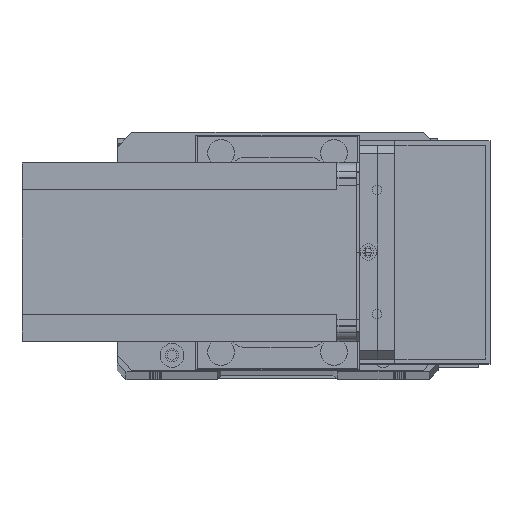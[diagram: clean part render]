
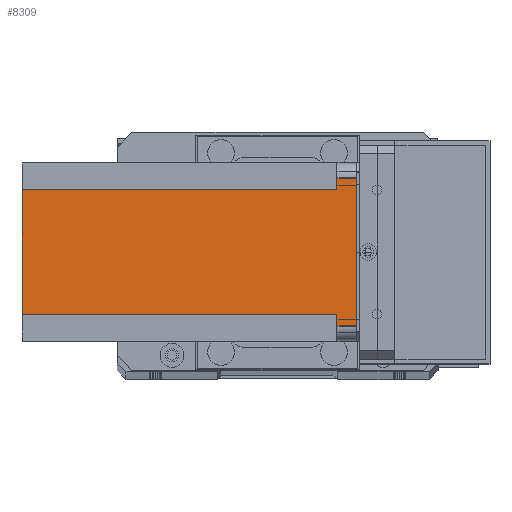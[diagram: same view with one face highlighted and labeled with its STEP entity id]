
A CAD part, top view. The second image highlights one B-rep face of the part: STEP entity #8309.
In plain terms, the highlighted planar face has unit normal (0, 0, 1) as drawn and (1, 0, 0) by its records, which use the part's own axes.
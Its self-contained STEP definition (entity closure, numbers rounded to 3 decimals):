
#1327 = EDGE_CURVE ( 'NONE', #29717, #27792, #20728, .T. ) ;
#1369 = ORIENTED_EDGE ( 'NONE', *, *, #2274, .F. ) ;
#1533 = DIRECTION ( 'NONE',  ( 0., 0., -1. ) ) ;
#1761 = CARTESIAN_POINT ( 'NONE',  ( 60., 55., -112.5 ) ) ;
#2274 = EDGE_CURVE ( 'NONE', #8388, #29334, #2811, .T. ) ;
#2801 = ORIENTED_EDGE ( 'NONE', *, *, #1327, .F. ) ;
#2811 = LINE ( 'NONE', #17540, #27868 ) ;
#3023 = LINE ( 'NONE', #1761, #28079 ) ;
#3851 = VERTEX_POINT ( 'NONE', #19854 ) ;
#5278 = ORIENTED_EDGE ( 'NONE', *, *, #15364, .F. ) ;
#5465 = ORIENTED_EDGE ( 'NONE', *, *, #7464, .T. ) ;
#6246 = VECTOR ( 'NONE', #12722, 1000. ) ;
#6662 = CARTESIAN_POINT ( 'NONE',  ( 60., 9., -6.5 ) ) ;
#7134 = CARTESIAN_POINT ( 'NONE',  ( 60., 5., -6.5 ) ) ;
#7464 = EDGE_CURVE ( 'NONE', #29717, #21645, #27766, .T. ) ;
#7660 = VECTOR ( 'NONE', #9786, 1000. ) ;
#7754 = LINE ( 'NONE', #28847, #25564 ) ;
#8309 = ADVANCED_FACE ( 'NONE', ( #27705 ), #29909, .T. ) ;
#8388 = VERTEX_POINT ( 'NONE', #18219 ) ;
#8559 = EDGE_CURVE ( 'NONE', #11152, #29334, #3023, .T. ) ;
#9449 = DIRECTION ( 'NONE',  ( 0., 0., 1. ) ) ;
#9786 = DIRECTION ( 'NONE',  ( 0., 1., 0. ) ) ;
#10155 = CARTESIAN_POINT ( 'NONE',  ( 60., 51., -112.5 ) ) ;
#10585 = DIRECTION ( 'NONE',  ( 1., 0., 0. ) ) ;
#10671 = VERTEX_POINT ( 'NONE', #7134 ) ;
#11152 = VERTEX_POINT ( 'NONE', #16000 ) ;
#11537 = AXIS2_PLACEMENT_3D ( 'NONE', #20249, #10585, #27546 ) ;
#11848 = ORIENTED_EDGE ( 'NONE', *, *, #12796, .F. ) ;
#12722 = DIRECTION ( 'NONE',  ( 0., 0., -1. ) ) ;
#12796 = EDGE_CURVE ( 'NONE', #11152, #3851, #7754, .T. ) ;
#13613 = EDGE_CURVE ( 'NONE', #3851, #21645, #24056, .T. ) ;
#14293 = VECTOR ( 'NONE', #9449, 1000. ) ;
#15180 = CARTESIAN_POINT ( 'NONE',  ( 60., 0., -6.5 ) ) ;
#15364 = EDGE_CURVE ( 'NONE', #27792, #10671, #16379, .T. ) ;
#16000 = CARTESIAN_POINT ( 'NONE',  ( 60., 55., -6.5 ) ) ;
#16090 = CARTESIAN_POINT ( 'NONE',  ( 60., 5., -112.5 ) ) ;
#16379 = LINE ( 'NONE', #15180, #22819 ) ;
#17446 = LINE ( 'NONE', #16090, #30372 ) ;
#17540 = CARTESIAN_POINT ( 'NONE',  ( 60., 0., 0. ) ) ;
#18219 = CARTESIAN_POINT ( 'NONE',  ( 60., 5., 0. ) ) ;
#19423 = CARTESIAN_POINT ( 'NONE',  ( 60., 0., -112.5 ) ) ;
#19854 = CARTESIAN_POINT ( 'NONE',  ( 60., 51., -6.5 ) ) ;
#20249 = CARTESIAN_POINT ( 'NONE',  ( 60., 0., -112.5 ) ) ;
#20253 = CARTESIAN_POINT ( 'NONE',  ( 60., 9., -112.5 ) ) ;
#20728 = LINE ( 'NONE', #28766, #14293 ) ;
#21645 = VERTEX_POINT ( 'NONE', #26996 ) ;
#22057 = EDGE_LOOP ( 'NONE', ( #11848, #26062, #1369, #22462, #5278, #2801, #5465, #27327 ) ) ;
#22462 = ORIENTED_EDGE ( 'NONE', *, *, #26074, .T. ) ;
#22819 = VECTOR ( 'NONE', #27324, 1000. ) ;
#23565 = CARTESIAN_POINT ( 'NONE',  ( 60., 55., 0. ) ) ;
#23626 = DIRECTION ( 'NONE',  ( 0., 0., 1. ) ) ;
#23952 = DIRECTION ( 'NONE',  ( 0., -1., 0. ) ) ;
#24056 = LINE ( 'NONE', #10155, #6246 ) ;
#24850 = DIRECTION ( 'NONE',  ( 0., 1., 0. ) ) ;
#25564 = VECTOR ( 'NONE', #23952, 1000. ) ;
#26062 = ORIENTED_EDGE ( 'NONE', *, *, #8559, .T. ) ;
#26074 = EDGE_CURVE ( 'NONE', #8388, #10671, #17446, .T. ) ;
#26996 = CARTESIAN_POINT ( 'NONE',  ( 60., 51., -112.5 ) ) ;
#27324 = DIRECTION ( 'NONE',  ( 0., -1., 0. ) ) ;
#27327 = ORIENTED_EDGE ( 'NONE', *, *, #13613, .F. ) ;
#27546 = DIRECTION ( 'NONE',  ( 0., 1., 0. ) ) ;
#27705 = FACE_OUTER_BOUND ( 'NONE', #22057, .T. ) ;
#27766 = LINE ( 'NONE', #19423, #7660 ) ;
#27792 = VERTEX_POINT ( 'NONE', #6662 ) ;
#27868 = VECTOR ( 'NONE', #24850, 1000. ) ;
#28079 = VECTOR ( 'NONE', #23626, 1000. ) ;
#28766 = CARTESIAN_POINT ( 'NONE',  ( 60., 9., -112.5 ) ) ;
#28847 = CARTESIAN_POINT ( 'NONE',  ( 60., 60., -6.5 ) ) ;
#29334 = VERTEX_POINT ( 'NONE', #23565 ) ;
#29717 = VERTEX_POINT ( 'NONE', #20253 ) ;
#29909 = PLANE ( 'NONE',  #11537 ) ;
#30372 = VECTOR ( 'NONE', #1533, 1000. ) ;
